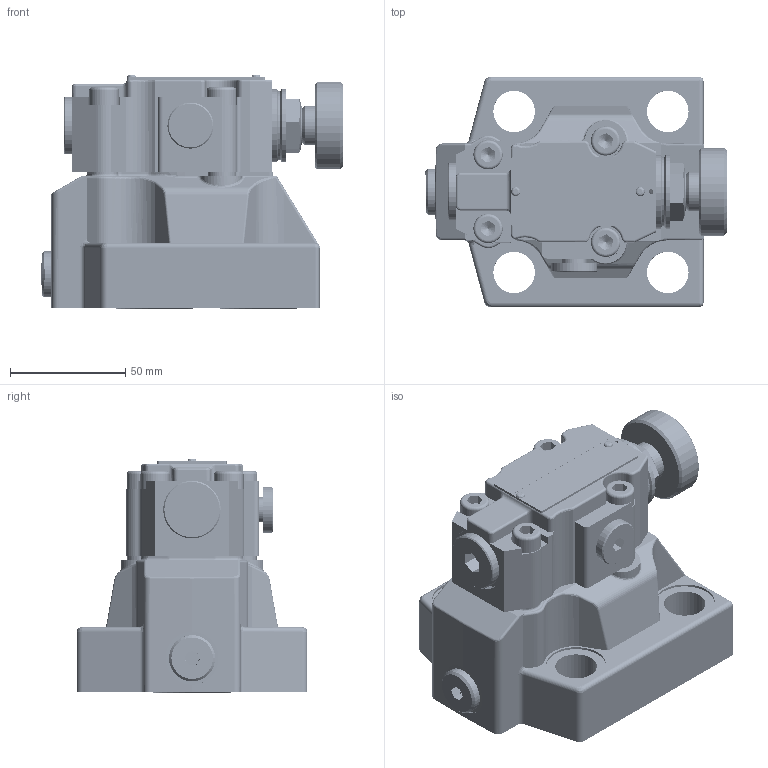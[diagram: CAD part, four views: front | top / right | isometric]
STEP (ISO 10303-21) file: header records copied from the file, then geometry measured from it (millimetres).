
FILE_DESCRIPTION(/* description */ (''),/* implementation_level */ '2;1');
FILE_NAME(/* name */ 'DB20-1-5XJ先导式溢流阀.prt.stp',/* time_stamp */ '2022-03-30T20:09:02+08:00',/* author */ (''),/* organization */ (''),/* preprocessor_version */ 'ST-DEVELOPER v16.7',/* originating_system */ 'SIEMENS PLM Software NX 12.0',/* authorisation */ '');
FILE_SCHEMA (('AUTOMOTIVE_DESIGN { 1 0 10303 214 3 1 1 1 }'));
Products named in the file (1): DB20-1-5XJ先导式溢流阀
Bounding box: 130.66 x 100 x 101.63 mm (x, y, z)
Volume: 181745.9 mm3; surface area: 112091.8 mm2
Topology: 22 solids, 23 shells, 753 faces, 1876 edges, 1190 vertices
Faces by surface type: plane 288, cylinder 260, bspline 93, cone 63, torus 45, sphere 4
Full cylindrical faces by diameter (mm): 1.8 x4, 1.9 x2, 2 x1, 4.2 x11, 5 x5, 6 x2, 7 x12, 8 x1, 8.4 x4, 9.5 x1, 11 x1, 11.44 x1, 11.5 x7, 12.2 x3, 12.73 x4, 16 x2, 17 x1, 18 x4, 19 x1, 20 x3, 23 x1, 25 x1, 26 x4, 28 x1, 30 x1, 32 x2, 34.8 x2, 38 x1, 38.309 x1
Entity records: 100066 total; most frequent: CARTESIAN_POINT 83487, ORIENTED_EDGE 3174, DIRECTION 3072, EDGE_CURVE 1587, AXIS2_PLACEMENT_3D 1211, VERTEX_POINT 1071, EDGE_LOOP 886, ADVANCED_FACE 718
